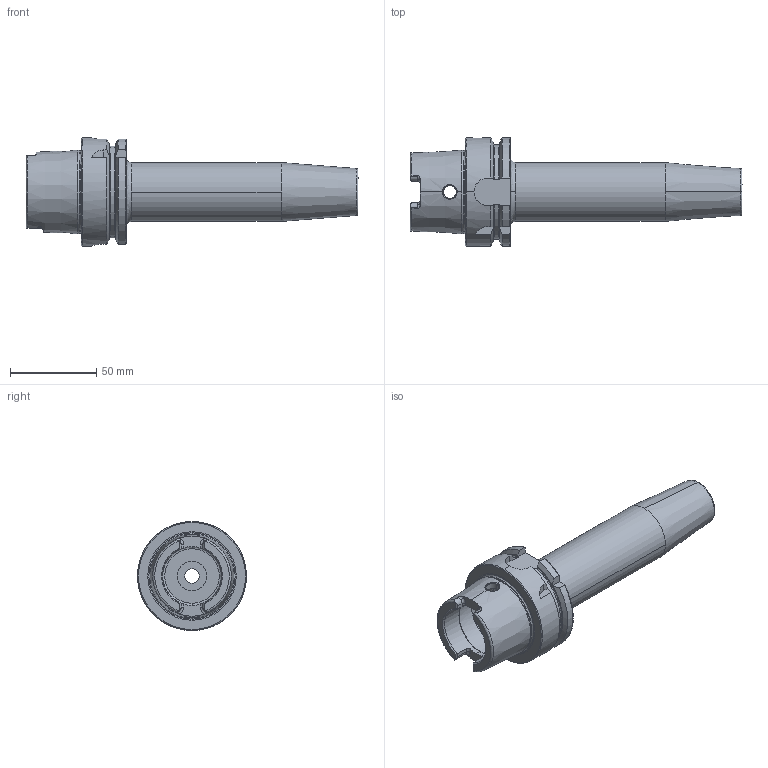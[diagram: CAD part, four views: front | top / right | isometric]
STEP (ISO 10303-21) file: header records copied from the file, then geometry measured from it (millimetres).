
FILE_DESCRIPTION (( 'STEP AP214' ), '1' );
FILE_NAME ('04-0489.STEP', '2021-08-03T19:11:20', ( '' ), ( '' ), 'SwSTEP 2.0', 'SolidWorks 2020', '' );
FILE_SCHEMA (( 'AUTOMOTIVE_DESIGN' ));
Length unit declared in the file: inch
Products named in the file (1): 04-0489
Bounding box: 192 x 63 x 63 mm (x, y, z)
Volume: 179961.7 mm3; surface area: 40485.7 mm2
Topology: 1 solids, 1 shells, 153 faces, 409 edges, 260 vertices
Faces by surface type: cylinder 49, bspline 41, plane 41, cone 22
Entity records: 8375 total; most frequent: CARTESIAN_POINT 4808, ORIENTED_EDGE 818, DIRECTION 656, EDGE_CURVE 409, AXIS2_PLACEMENT_3D 264, VERTEX_POINT 260, EDGE_LOOP 161, ADVANCED_FACE 153
